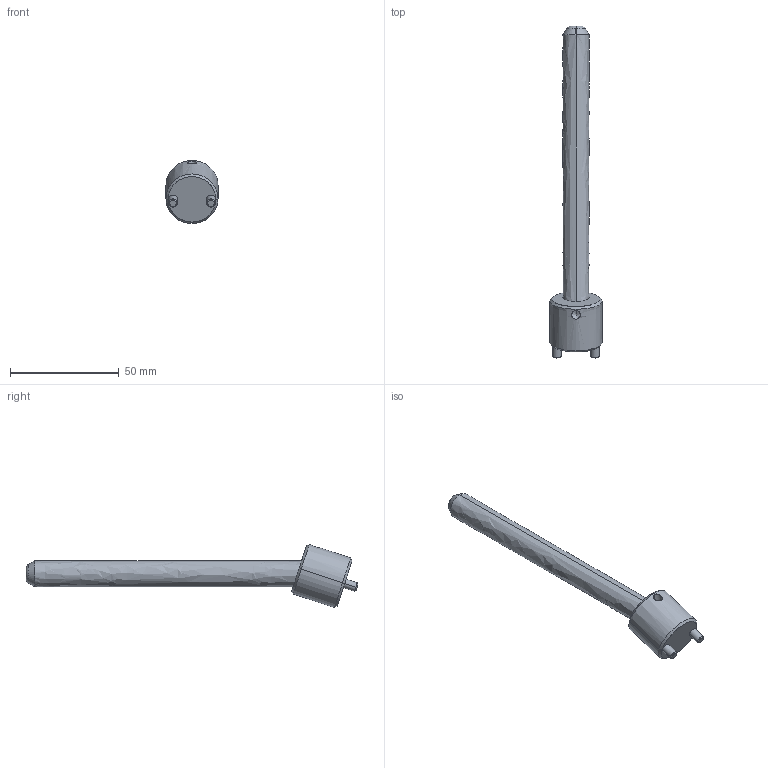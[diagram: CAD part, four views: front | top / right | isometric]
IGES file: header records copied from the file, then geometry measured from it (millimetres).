
Start section: START RECORD GO HERE.
Global section: file name: CI1812125.igs; native system: DASSAULT SYSTEMES CATIA V5 R20 - www.3ds.com; preprocessor: CATIA Version 5 Release 20 ; author: r.borello; organization: CFTORINO; date: 20190624.094214; units: millimetre
Bounding box: 24 x 152.87 x 29.01 mm (x, y, z)
Surface area: 8902.4 mm2 (no closed solid volume)
Topology: 0 solids, 0 shells, 39 faces, 162 edges, 160 vertices
Faces by surface type: revolution 32, plane 7
